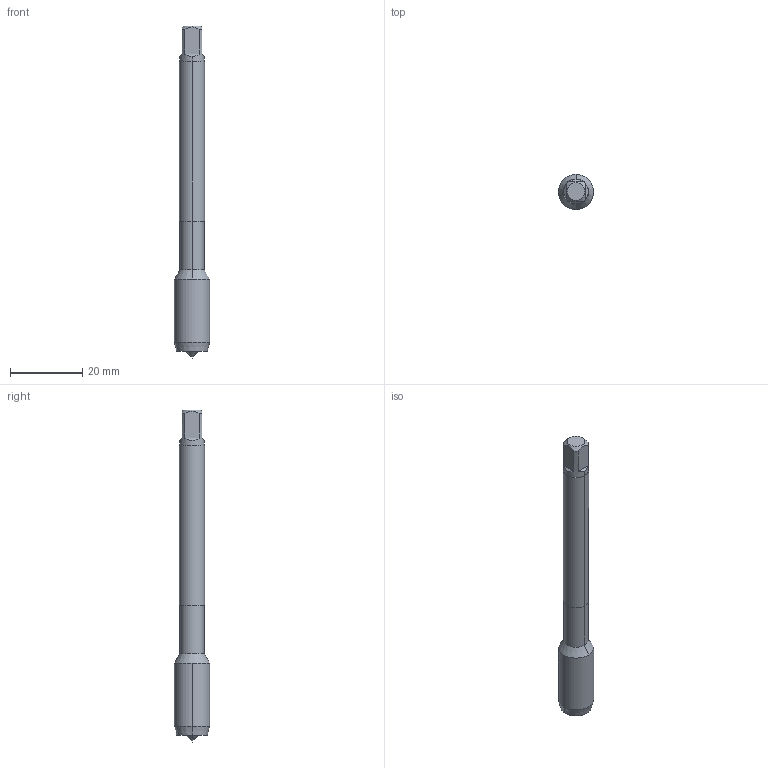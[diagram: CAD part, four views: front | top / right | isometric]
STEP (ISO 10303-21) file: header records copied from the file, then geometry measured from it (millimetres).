
FILE_DESCRIPTION (( 'STEP AP214' ), '1' );
FILE_NAME ('TC728200.STEP', '2020-03-10T05:20:49', ( 'USER' ), ( '' ), 'SwSTEP 2.0', 'SolidWorks 2018', '' );
FILE_SCHEMA (( 'AUTOMOTIVE_DESIGN' ));
Length unit declared in the file: millimetre
Products named in the file (1): TC728200
Bounding box: 9.73 x 9.73 x 91.85 mm (x, y, z)
Volume: 4079 mm3; surface area: 2380.7 mm2
Topology: 2 solids, 2 shells, 30 faces, 68 edges, 43 vertices
Faces by surface type: plane 14, cone 8, cylinder 8
Entity records: 1241 total; most frequent: CARTESIAN_POINT 206, DIRECTION 142, ORIENTED_EDGE 132, EDGE_CURVE 66, AXIS2_PLACEMENT_3D 57, VERTEX_POINT 43, UNCERTAINTY_MEASURE_WITH_UNIT 34, EDGE_LOOP 33
